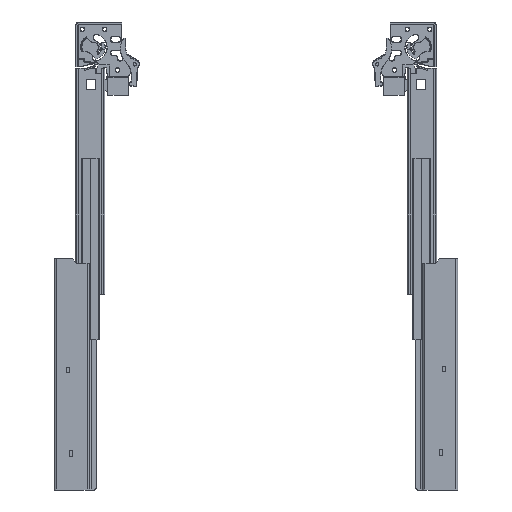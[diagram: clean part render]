
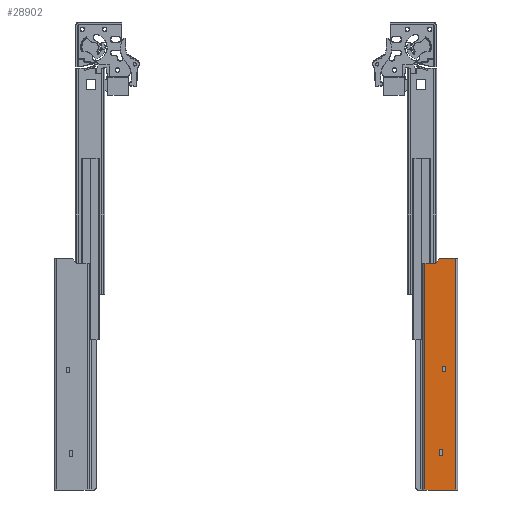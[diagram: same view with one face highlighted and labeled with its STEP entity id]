
A CAD part, front view. The second image highlights one B-rep face of the part: STEP entity #28902.
In plain terms, the highlighted planar face has unit normal (0, -1, 0).
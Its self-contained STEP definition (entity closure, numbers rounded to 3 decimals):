
#865=FACE_BOUND('',#6007,.T.);
#866=FACE_BOUND('',#6008,.T.);
#1161=CIRCLE('',#30876,2.);
#1163=CIRCLE('',#30880,2.);
#4088=FACE_OUTER_BOUND('',#6006,.T.);
#6006=EDGE_LOOP('',(#18859,#18860,#18861,#18862,#18863,#18864,#18865,#18866));
#6007=EDGE_LOOP('',(#18867,#18868,#18869,#18870));
#6008=EDGE_LOOP('',(#18871,#18872,#18873,#18874));
#8053=LINE('',#45003,#9963);
#8057=LINE('',#45011,#9967);
#8060=LINE('',#45017,#9970);
#8063=LINE('',#45022,#9973);
#8065=LINE('',#45028,#9975);
#8069=LINE('',#45036,#9979);
#8072=LINE('',#45042,#9982);
#8075=LINE('',#45047,#9985);
#8093=LINE('',#45104,#10003);
#8112=LINE('',#45156,#10022);
#8115=LINE('',#45167,#10025);
#8116=LINE('',#45170,#10026);
#8117=LINE('',#45172,#10027);
#8118=LINE('',#45173,#10028);
#9963=VECTOR('',#35172,5.);
#9967=VECTOR('',#35178,3.);
#9970=VECTOR('',#35183,5.);
#9973=VECTOR('',#35188,3.);
#9975=VECTOR('',#35194,6.);
#9979=VECTOR('',#35200,3.5);
#9982=VECTOR('',#35205,6.);
#9985=VECTOR('',#35210,3.5);
#10003=VECTOR('',#35264,5.414);
#10022=VECTOR('',#35309,9.672);
#10025=VECTOR('',#35320,225.);
#10026=VECTOR('',#35323,30.5);
#10027=VECTOR('',#35324,230.);
#10028=VECTOR('',#35325,14.172);
#11909=VERTEX_POINT('',#45001);
#11910=VERTEX_POINT('',#45002);
#11913=VERTEX_POINT('',#45010);
#11915=VERTEX_POINT('',#45016);
#11917=VERTEX_POINT('',#45026);
#11918=VERTEX_POINT('',#45027);
#11921=VERTEX_POINT('',#45035);
#11923=VERTEX_POINT('',#45041);
#11943=VERTEX_POINT('',#45097);
#11944=VERTEX_POINT('',#45099);
#11945=VERTEX_POINT('',#45103);
#11948=VERTEX_POINT('',#45111);
#11965=VERTEX_POINT('',#45154);
#11969=VERTEX_POINT('',#45165);
#11970=VERTEX_POINT('',#45169);
#11971=VERTEX_POINT('',#45171);
#14387=EDGE_CURVE('',#11909,#11910,#8053,.T.);
#14391=EDGE_CURVE('',#11910,#11913,#8057,.T.);
#14394=EDGE_CURVE('',#11913,#11915,#8060,.T.);
#14397=EDGE_CURVE('',#11915,#11909,#8063,.T.);
#14399=EDGE_CURVE('',#11917,#11918,#8065,.T.);
#14403=EDGE_CURVE('',#11918,#11921,#8069,.T.);
#14406=EDGE_CURVE('',#11921,#11923,#8072,.T.);
#14409=EDGE_CURVE('',#11923,#11917,#8075,.T.);
#14434=EDGE_CURVE('',#11944,#11943,#1161,.T.);
#14436=EDGE_CURVE('',#11944,#11945,#8093,.T.);
#14440=EDGE_CURVE('',#11948,#11945,#1163,.T.);
#14462=EDGE_CURVE('',#11965,#11943,#8112,.T.);
#14468=EDGE_CURVE('',#11965,#11969,#8115,.T.);
#14469=EDGE_CURVE('',#11969,#11970,#8116,.T.);
#14470=EDGE_CURVE('',#11971,#11970,#8117,.T.);
#14471=EDGE_CURVE('',#11971,#11948,#8118,.T.);
#18859=ORIENTED_EDGE('',*,*,#14440,.T.);
#18860=ORIENTED_EDGE('',*,*,#14436,.F.);
#18861=ORIENTED_EDGE('',*,*,#14434,.T.);
#18862=ORIENTED_EDGE('',*,*,#14462,.F.);
#18863=ORIENTED_EDGE('',*,*,#14468,.T.);
#18864=ORIENTED_EDGE('',*,*,#14469,.T.);
#18865=ORIENTED_EDGE('',*,*,#14470,.F.);
#18866=ORIENTED_EDGE('',*,*,#14471,.T.);
#18867=ORIENTED_EDGE('',*,*,#14387,.T.);
#18868=ORIENTED_EDGE('',*,*,#14391,.T.);
#18869=ORIENTED_EDGE('',*,*,#14394,.T.);
#18870=ORIENTED_EDGE('',*,*,#14397,.T.);
#18871=ORIENTED_EDGE('',*,*,#14399,.T.);
#18872=ORIENTED_EDGE('',*,*,#14403,.T.);
#18873=ORIENTED_EDGE('',*,*,#14406,.T.);
#18874=ORIENTED_EDGE('',*,*,#14409,.T.);
#26547=PLANE('',#30895);
#28902=ADVANCED_FACE('',(#4088,#865,#866),#26547,.F.);
#30876=AXIS2_PLACEMENT_3D('',#45100,#35259,#35260);
#30880=AXIS2_PLACEMENT_3D('',#45112,#35271,#35272);
#30895=AXIS2_PLACEMENT_3D('',#45168,#35321,#35322);
#35172=DIRECTION('',(0.,0.,1.));
#35178=DIRECTION('',(1.,0.,0.));
#35183=DIRECTION('',(0.,0.,-1.));
#35188=DIRECTION('',(-1.,0.,0.));
#35194=DIRECTION('',(0.,0.,1.));
#35200=DIRECTION('',(1.,0.,0.));
#35205=DIRECTION('',(0.,0.,-1.));
#35210=DIRECTION('',(-1.,0.,0.));
#35259=DIRECTION('center_axis',(0.,1.,0.));
#35260=DIRECTION('ref_axis',(0.383,0.,-0.924));
#35264=DIRECTION('',(0.707,0.,0.707));
#35271=DIRECTION('center_axis',(0.,-1.,0.));
#35272=DIRECTION('ref_axis',(-0.383,0.,0.924));
#35309=DIRECTION('',(1.,0.,0.));
#35320=DIRECTION('',(0.,0.,-1.));
#35321=DIRECTION('center_axis',(0.,1.,0.));
#35322=DIRECTION('ref_axis',(1.,0.,0.));
#35323=DIRECTION('',(1.,0.,0.));
#35324=DIRECTION('',(0.,0.,-1.));
#35325=DIRECTION('',(-1.,0.,0.));
#45001=CARTESIAN_POINT('',(-15.,0.,-113.));
#45002=CARTESIAN_POINT('',(-15.,0.,-108.));
#45003=CARTESIAN_POINT('',(-15.,0.,-54.));
#45010=CARTESIAN_POINT('',(-12.,0.,-108.));
#45011=CARTESIAN_POINT('',(-22.25,0.,-108.));
#45016=CARTESIAN_POINT('',(-12.,0.,-113.));
#45017=CARTESIAN_POINT('',(-12.,0.,-56.5));
#45022=CARTESIAN_POINT('',(-23.75,0.,-113.));
#45026=CARTESIAN_POINT('',(-18.5,0.,-196.));
#45027=CARTESIAN_POINT('',(-18.5,0.,-190.));
#45028=CARTESIAN_POINT('',(-18.5,0.,-95.));
#45035=CARTESIAN_POINT('',(-15.,0.,-190.));
#45036=CARTESIAN_POINT('',(-23.75,0.,-190.));
#45041=CARTESIAN_POINT('',(-15.,0.,-196.));
#45042=CARTESIAN_POINT('',(-15.,0.,-98.));
#45047=CARTESIAN_POINT('',(-25.5,0.,-196.));
#45097=CARTESIAN_POINT('',(-22.828,0.,-5.));
#45099=CARTESIAN_POINT('',(-21.414,0.,-4.414));
#45100=CARTESIAN_POINT('Origin',(-22.828,0.,
-3.));
#45103=CARTESIAN_POINT('',(-17.586,0.,-0.586));
#45104=CARTESIAN_POINT('',(-23.375,0.,-6.375));
#45111=CARTESIAN_POINT('',(-16.172,0.,0.));
#45112=CARTESIAN_POINT('Origin',(-16.172,0.,
-2.));
#45154=CARTESIAN_POINT('',(-32.5,0.,-5.));
#45156=CARTESIAN_POINT('',(-35.75,0.,-5.));
#45165=CARTESIAN_POINT('',(-32.5,0.,-230.));
#45167=CARTESIAN_POINT('',(-32.5,0.,0.));
#45168=CARTESIAN_POINT('Origin',(-32.5,0.,0.));
#45169=CARTESIAN_POINT('',(-2.,0.,-230.));
#45170=CARTESIAN_POINT('',(-2.,0.,-230.));
#45171=CARTESIAN_POINT('',(-2.,0.,0.));
#45172=CARTESIAN_POINT('',(-2.,0.,0.));
#45173=CARTESIAN_POINT('',(-2.,0.,0.));
